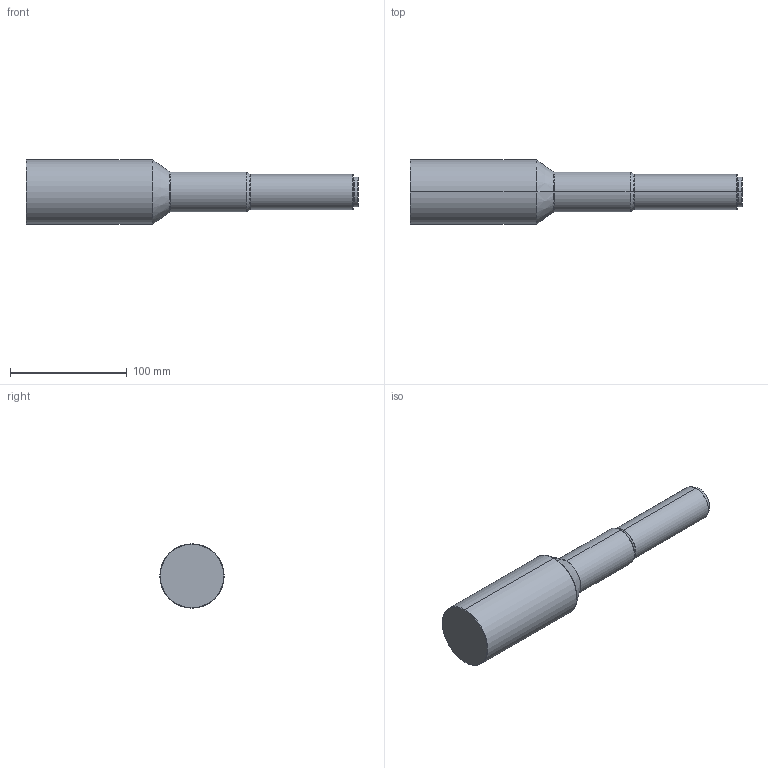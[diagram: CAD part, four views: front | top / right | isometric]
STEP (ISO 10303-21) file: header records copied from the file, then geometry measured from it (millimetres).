
FILE_DESCRIPTION (( 'STEP AP203' ), '1' );
FILE_NAME ('WWH20-257AT-230V2.STEP', '2022-03-01T06:06:33', ( '' ), ( '' ), 'SwSTEP 2.0', 'SolidWorks 2017', '' );
FILE_SCHEMA (( 'CONFIG_CONTROL_DESIGN' ));
Length unit declared in the file: millimetre
Products named in the file (1): WWH20-257AT-230V2
Bounding box: 283.8 x 55 x 55 mm (x, y, z)
Volume: 406791.4 mm3; surface area: 40318.3 mm2
Topology: 1 solids, 1 shells, 32 faces, 62 edges, 34 vertices
Faces by surface type: cone 10, cylinder 10, torus 8, plane 4
Entity records: 889 total; most frequent: DIRECTION 170, CARTESIAN_POINT 129, ORIENTED_EDGE 124, AXIS2_PLACEMENT_3D 75, EDGE_CURVE 62, CIRCLE 42, EDGE_LOOP 34, VERTEX_POINT 34
